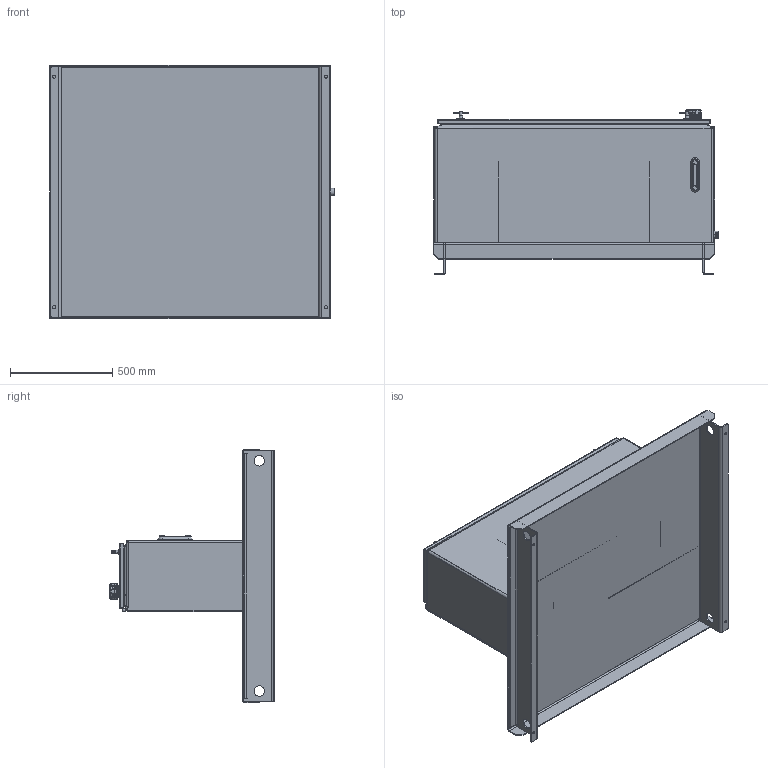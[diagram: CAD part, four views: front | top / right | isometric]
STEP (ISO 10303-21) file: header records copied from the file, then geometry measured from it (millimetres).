
FILE_DESCRIPTION (( 'STEP AP203' ), '1' );
FILE_NAME ('RTP045-HT.STEP', '2015-01-07T19:18:07', ( '' ), ( '' ), 'SwSTEP 2.0', 'SolidWorks 2014', '' );
FILE_SCHEMA (( 'CONFIG_CONTROL_DESIGN' ));
Length unit declared in the file: inch
Products named in the file (1): RTP045-HT
Bounding box: 1390.65 x 808.99 x 1235.08 mm (x, y, z)
Volume: 24436050.9 mm3; surface area: 11021325.1 mm2
Topology: 41 solids, 219 shells, 2859 faces, 6316 edges, 3873 vertices
Faces by surface type: plane 1256, cylinder 1018, torus 299, bspline 144, cone 92, sphere 50
Entity records: 87371 total; most frequent: CARTESIAN_POINT 24000, DIRECTION 13832, ORIENTED_EDGE 12536, EDGE_CURVE 6268, AXIS2_PLACEMENT_3D 5317, VERTEX_POINT 3861, LINE 3198, VECTOR 3198
